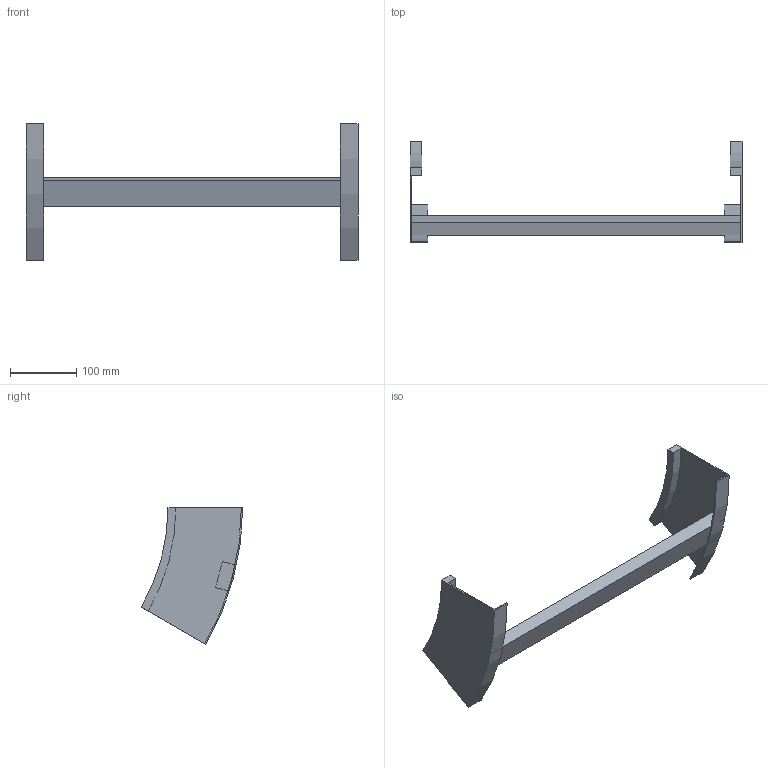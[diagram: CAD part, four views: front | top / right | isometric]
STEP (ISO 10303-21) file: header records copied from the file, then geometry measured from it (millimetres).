
FILE_DESCRIPTION (( 'STEP AP214' ), '1' );
FILE_NAME ('B2X32B3J500XX.step', '2025-03-20T10:00:27', ( '' ), ( '' ), 'SwSTEP 2.0', 'SolidWorks 2023', '' );
FILE_SCHEMA (( 'AUTOMOTIVE_DESIGN' ));
Length unit declared in the file: millimetre
Products named in the file (3): B2X32B3J500XX; B2_LONGH.SALITA_30°_H112.5_R300; TRAVERSINO_500
Assembly tree (3 placements, depth 2):
  B2X32B3J500XX
    B2_LONGH.SALITA_30°_H112.5_R300  x2
    TRAVERSINO_500
Bounding box: 500 x 152.69 x 206.25 mm (x, y, z)
Volume: 568770.5 mm3; surface area: 180735.9 mm2
Topology: 3 solids, 3 shells, 26 faces, 60 edges, 40 vertices
Faces by surface type: plane 18, cylinder 8
Entity records: 544 total; most frequent: DIRECTION 88, CARTESIAN_POINT 82, ORIENTED_EDGE 72, EDGE_CURVE 36, AXIS2_PLACEMENT_3D 30, LINE 28, VECTOR 28, VERTEX_POINT 24
